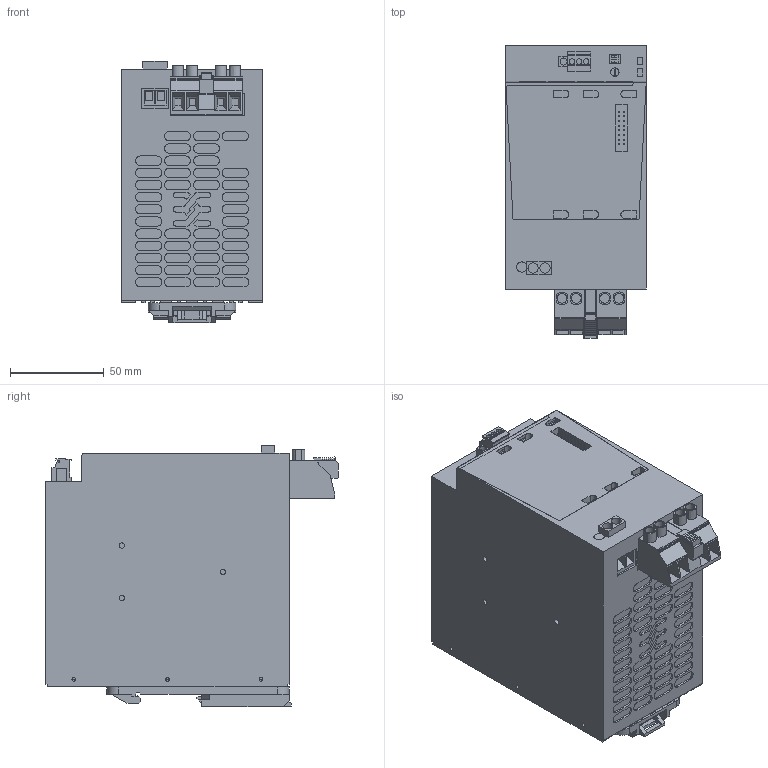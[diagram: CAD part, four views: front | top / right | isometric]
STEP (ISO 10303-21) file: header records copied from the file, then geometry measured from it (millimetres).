
FILE_DESCRIPTION(('CATIA V5 STEP Exchange','CAx-IF Rec.Pracs.--- Model Styling and Organization---1.4--- 2014-01-23'),'2;1');
FILE_NAME ('D1467455_0_2467310000_S3D_PRO_TOPDC_24V-24V_20A_EX.stp','2020-12-09T12:56:30+00:00',('none'),('Weidmueller'),'CATIA Version 5-6 Release 2016 SP3 HF44','CATIA V5 STEP AP214','none');
FILE_SCHEMA(('AUTOMOTIVE_DESIGN { 1 0 10303 214 1 1 1 1 }'));
Products named in the file (1): S3D_PRO_TOPDC_24V-24V_20A_EX
Bounding box: 75 x 156.3 x 139.5 mm (x, y, z)
Volume: 1209398.3 mm3; surface area: 131574 mm2
Topology: 37 solids, 38 shells, 2111 faces, 5707 edges, 3832 vertices
Faces by surface type: plane 1579, cylinder 401, extrusion 125, cone 6
Entity records: 66527 total; most frequent: CARTESIAN_POINT 14661, ORIENTED_EDGE 11414, DIRECTION 7966, EDGE_CURVE 5707, VECTOR 4635, LINE 4510, VERTEX_POINT 3832, EDGE_LOOP 2307
